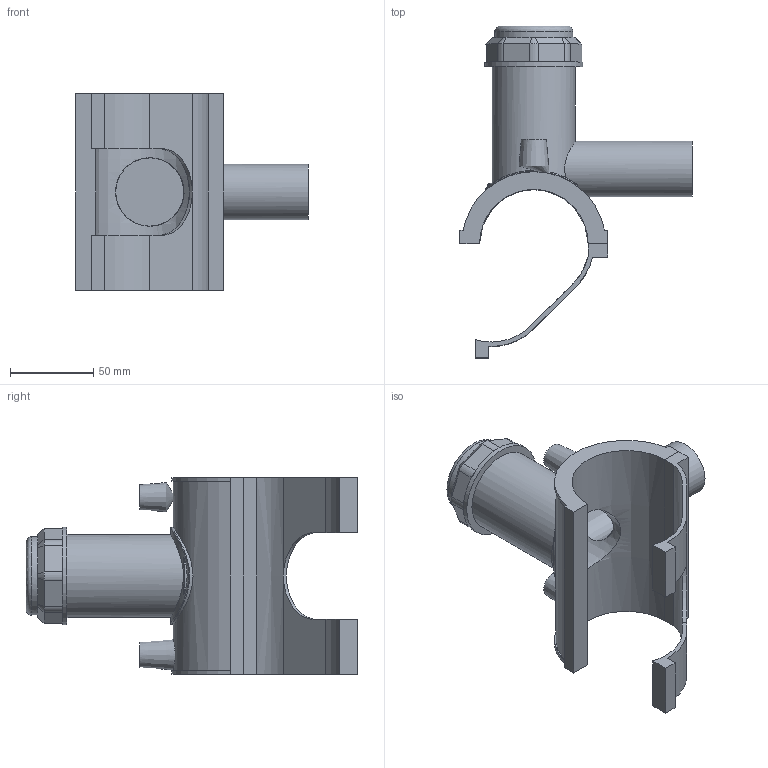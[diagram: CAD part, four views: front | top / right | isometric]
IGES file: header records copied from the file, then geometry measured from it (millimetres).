
Global section: file name: 5963BB03020010.ipt; native system: Autodesk Inventor 2019; preprocessor: unknown; author: KIM; date: 20210830.101340; units: millimetre
Bounding box: 139.45 x 198.92 x 118.11 mm (x, y, z)
Volume: 284426.4 mm3; surface area: 97206.7 mm2
Topology: 3 solids, 3 shells, 109 faces, 272 edges, 178 vertices
Faces by surface type: plane 64, cylinder 23, cone 11, revolution 10, bspline 1
Full cylindrical faces by diameter (mm): 4 x2, 33.3 x1, 46.872 x1, 49.801 x1, 58.59 x1
